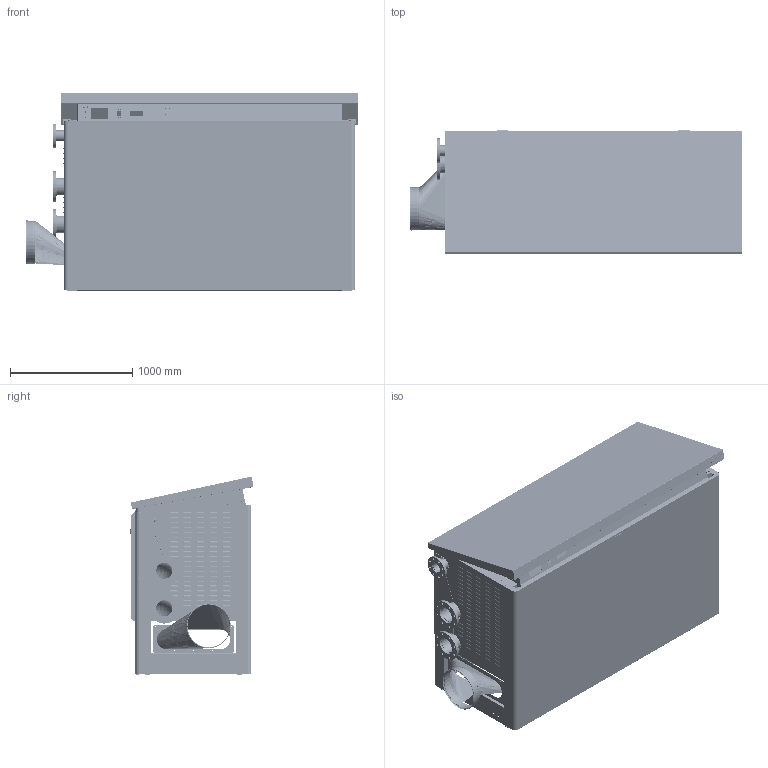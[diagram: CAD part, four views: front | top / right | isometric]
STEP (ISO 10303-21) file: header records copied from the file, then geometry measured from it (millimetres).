
FILE_DESCRIPTION(/* description */ ('Unknown'),/* implementation_level */ '2;1');
FILE_NAME(/* name */ 'MODULEX SINTESI 1500',/* time_stamp */ '2021-01-14T12:14:45+01:00',/* author */ ('Unknown'),/* organization */ ('Unknown'),/* preprocessor_version */ 'ST-DEVELOPER v16.7',/* originating_system */ 'Solid Edge',/* authorisation */ 'Unknown');
FILE_SCHEMA (('AUTOMOTIVE_DESIGN {1 0 10303 214 3 1 1}'));
Products named in the file (193): CT19007_56-00000; CT19007_59-00000_oa_0; 00214096; inserto_ESAG_M6_aperto; 00214096-10; 00214096-4_oa_1; 00214096-4_oa_2; 00214096-6; 00214096-9; inserto_M8_H=21_aperto; 00214096-4_oa_3; 00214096-4_oa_4; 00214096-3_oa_5; 00214096-7; 00214096_777_1,678_Saldatura d'angolo 18_oa_6; 00214096_777_1,678_Saldatura d'angolo 18_oa_7; 00214096_777_1,678_Saldatura d'angolo 18_oa_8; 00214096_777_1,678_Saldatura d'angolo 18; 00214096-5_oa_9; 00214096-5_oa_10; 00214096_777_1,678_Saldatura d'angolo 18_oa_11; 00214096_777_1,678_Saldatura d'angolo 18_oa_12; 00214096_777_1,678_Saldatura d'angolo 18_oa_13; 00214096_777_1,678_Saldatura d'angolo 18_oa_14; 00214096_777_1,678_Saldatura d'angolo 18_oa_15; 00214096_777_1,678_Saldatura d'angolo 18_oa_16; 00214096_777_1,678_Saldatura d'angolo 18_oa_17; 00214096_777_1,678_Saldatura d'angolo 18_oa_18; 00214096_777_1,678_Saldatura d'angolo 18_oa_19; 00214096_777_1,678_Saldatura d'angolo 18_oa_20; CT19007_57-00000_oa_21; CT19007_99-000785_oa_22; 38811 ; CT19007_100-000788; 38810; CT19007_99-000785_1,351_2,149_Saldatura d'angolo 10_oa_23; CT19007_99-000785_1,351_2,149_Saldatura d'angolo 10_oa_24; CT19007_99-000785_1,351_2,149_Saldatura d'angolo 10_oa_25; 24488; CT19007_99-000785_1,351_2,149_Saldatura d'angolo 10_oa_26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
Assembly tree (485 placements, depth 5):
  CT19007_56-00000
    CT19007_59-00000_oa_0
      00214096  x2
        inserto_ESAG_M6_aperto
        00214096-10
        00214096-4_oa_1
          00214096-4_oa_2
        00214096-6
        00214096-9
        inserto_M8_H=21_aperto
        00214096-4_oa_3
          00214096-4_oa_4
        00214096-3_oa_5
        00214096-7
        00214096-5_oa_9
          00214096-5_oa_10
    CT19007_57-00000_oa_21
      CT19007_99-000785_oa_22
        38811 
        CT19007_100-000788
        38810
        24488
        VER0010
        00213035  x4
        39912
      00211352  x2
      SEN0140C_oa_31
        SEN0140C-1
        SEN0140C-2  x2
        SEN0140C-3
      SEN0140C_oa_32
        SEN0140C-1
        SEN0140C-2  x2
        SEN0140C-3
      00261357
      CT19007_96-000773
        CT19007_97-000774
          CT19007_98-000775
          00286699-00000_oa_33
          CT190007_91-00000
          38830
          00286701-00000
          CT190007_93-00000  x2
          24102
        VER0010
      CT190007_89-00000_oa_49
        CT190007_90-00000
          CT190007_92-00000
          MNT0103-00001  x2
          CT190007_93-00000  x2
          MNT0030
          38810
          CT190007_91-00000
          38830
          00286701-00000
          00286699-00000
      00261247
      PPS0110C
      00256189-002441
        00256189_1-002442
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Bounding box: 2712 x 1005.47 x 1625.14 mm (x, y, z)
Volume: 41006362.5 mm3; surface area: 44714560.4 mm2
Topology: 622 solids, 622 shells, 12750 faces, 33178 edges, 20721 vertices
Faces by surface type: plane 7169, cylinder 3290, sphere 1449, cone 374, bspline 323, torus 145
Full cylindrical faces by diameter (mm): 1 x1, 1.5 x8, 2.459 x2, 3 x11, 3.2 x22, 3.242 x24, 3.5 x2, 3.7 x40, 3.8 x36, 4 x17, 4.134 x12, 4.2 x31, 4.3 x12, 4.4 x4, 4.5 x8, 4.8 x18, 4.917 x8, 5 x25, 5.1 x8, 5.3 x4, 5.4 x8, 5.5 x17, 6 x29, 6.2 x12, 6.4 x12, 6.647 x4, 7 x19, 8 x168, 8.2 x13, 8.376 x24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
Entity records: 242927 total; most frequent: CARTESIAN_POINT 50088, DIRECTION 39754, ORIENTED_EDGE 35870, EDGE_CURVE 17935, AXIS2_PLACEMENT_3D 15304, VERTEX_POINT 11883, EDGE_LOOP 9654, FACE_BOUND 9654
